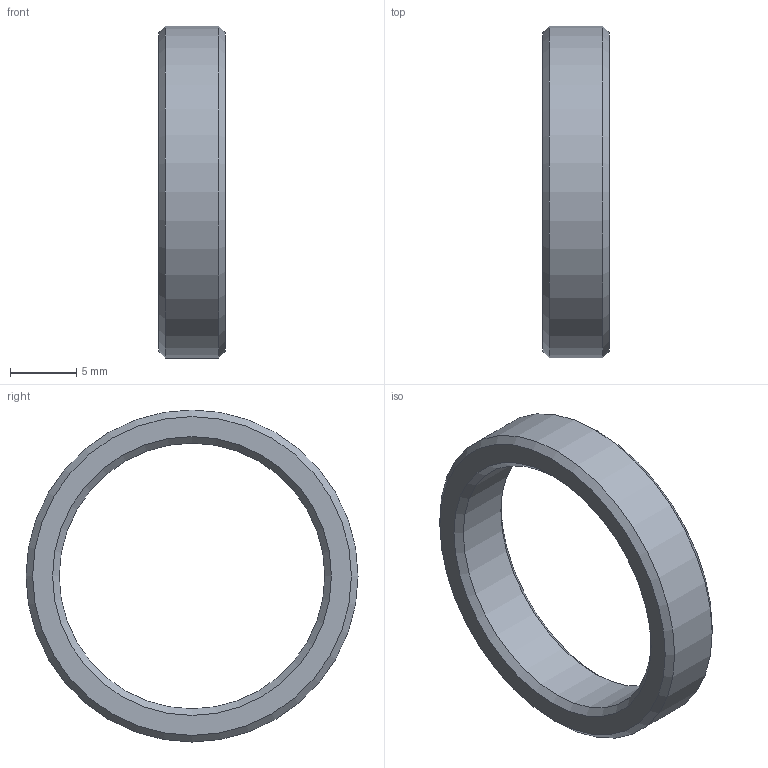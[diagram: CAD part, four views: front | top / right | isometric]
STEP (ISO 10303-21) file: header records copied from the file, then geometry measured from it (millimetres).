
FILE_DESCRIPTION(/* description */ (''),/* implementation_level */ '2;1');
FILE_NAME(/* name */ '',/* time_stamp */ '2025-09-02T10:40:57+09:00',/* author */ ('jhkim'),/* organization */ (''),/* preprocessor_version */ 'ST-DEVELOPER v20.1',/* originating_system */ 'Autodesk Inventor 2026',/* authorisation */ '');
FILE_SCHEMA (('AUTOMOTIVE_DESIGN { 1 0 10303 214 3 1 1 }'));
Length unit declared in the file: millimetre
Products named in the file (1): 칼라
Bounding box: 5 x 25 x 25 mm (x, y, z)
Volume: 848.2 mm3; surface area: 977.5 mm2
Topology: 1 solids, 1 shells, 8 faces, 16 edges, 10 vertices
Faces by surface type: cone 4, plane 2, cylinder 2
Full cylindrical faces by diameter (mm): 20 x1, 25 x1
Entity records: 261 total; most frequent: DIRECTION 44, CARTESIAN_POINT 35, ORIENTED_EDGE 32, AXIS2_PLACEMENT_3D 19, EDGE_CURVE 16, EDGE_LOOP 10, CIRCLE 10, VERTEX_POINT 10
